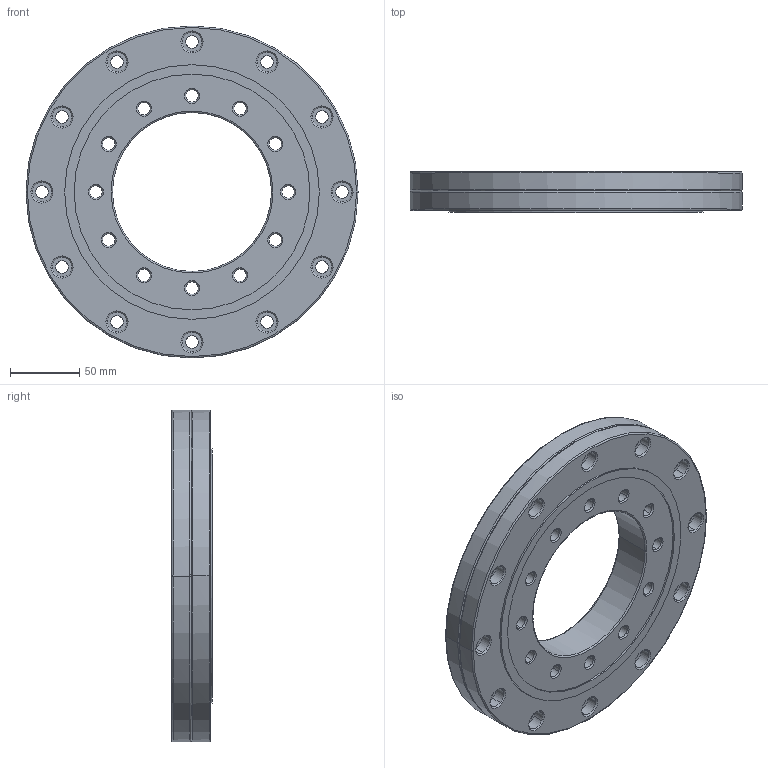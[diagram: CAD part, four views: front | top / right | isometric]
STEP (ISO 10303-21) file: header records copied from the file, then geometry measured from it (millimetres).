
FILE_DESCRIPTION(('no description'),'unknown implementation level');
FILE_NAME('CRBD11528C_50.stp',' ',('HIWIN GmbH'),('CADClick - KiM GmbH - www.kimweb.de'),'unknown preprocess','ACIS','unknown authorization');
FILE_SCHEMA(('automotive_design'));
Length unit declared in the file: millimetre
Products named in the file (5): CRBD11528C_1; CRBD11528C_2; CRBD11528C_3; CRBD11528C_4; CRBD11528C
Bounding box: 240 x 29.3 x 240 mm (x, y, z)
Volume: 810376.4 mm3; surface area: 195623.7 mm2
Topology: 5 solids, 5 shells, 462 faces, 1128 edges, 700 vertices
Faces by surface type: cone 264, cylinder 140, plane 34, torus 24
Entity records: 26904 total; most frequent: DIRECTION 2786, STYLED_ITEM 2295, PRESENTATION_STYLE_ASSIGNMENT 2295, CARTESIAN_POINT 2295, COLOUR_RGB 2295, ORIENTED_EDGE 2256, AXIS2_PLACEMENT_3D 1191, EDGE_CURVE 1128
